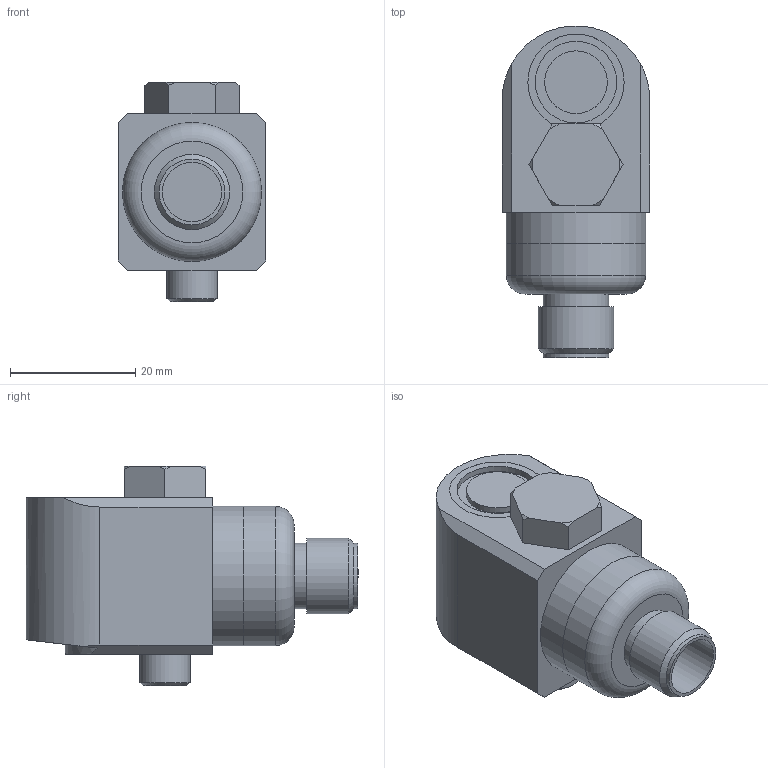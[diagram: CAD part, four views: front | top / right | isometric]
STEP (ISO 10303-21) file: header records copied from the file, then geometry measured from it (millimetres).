
FILE_DESCRIPTION(/* description */ (''),/* implementation_level */ '2;1');
FILE_NAME(/* name */ 'Z:\Engineering\Drawings\3D Library\Assemblies\Website\Premium Side\Compact\HS-170 Side M12\HS-170SXXX5408.stp',/* time_stamp */ '2023-03-20T15:08:33+00:00',/* author */ ('Ricardo.Peneda'),/* organization */ (''),/* preprocessor_version */ 'ST-DEVELOPER v18.1',/* originating_system */ 'Autodesk Inventor 2021',/* authorisation */ '');
FILE_SCHEMA (('AUTOMOTIVE_DESIGN { 1 0 10303 214 3 1 1 }'));
Length unit declared in the file: inch
Products named in the file (1): HS-170SXXX5408_Shrinkwrap_1
Bounding box: 23.5 x 52.94 x 35 mm (x, y, z)
Volume: 15891.5 mm3; surface area: 9908.2 mm2
Topology: 4 solids, 4 shells, 76 faces, 192 edges, 139 vertices
Faces by surface type: plane 38, cylinder 28, cone 9, torus 1
Full cylindrical faces by diameter (mm): 2.5 x1, 6 x1, 6.4 x1, 7 x1, 8 x1, 9.4 x2, 10 x1, 10.496 x1, 10.5 x1, 12 x1, 13 x1, 14.9 x1, 15.34 x1, 15.35 x1, 18 x1, 19.95 x1, 20 x1, 22.2 x2
Entity records: 2537 total; most frequent: CARTESIAN_POINT 461, DIRECTION 443, ORIENTED_EDGE 384, EDGE_CURVE 192, AXIS2_PLACEMENT_3D 188, VERTEX_POINT 139, CIRCLE 100, EDGE_LOOP 95
